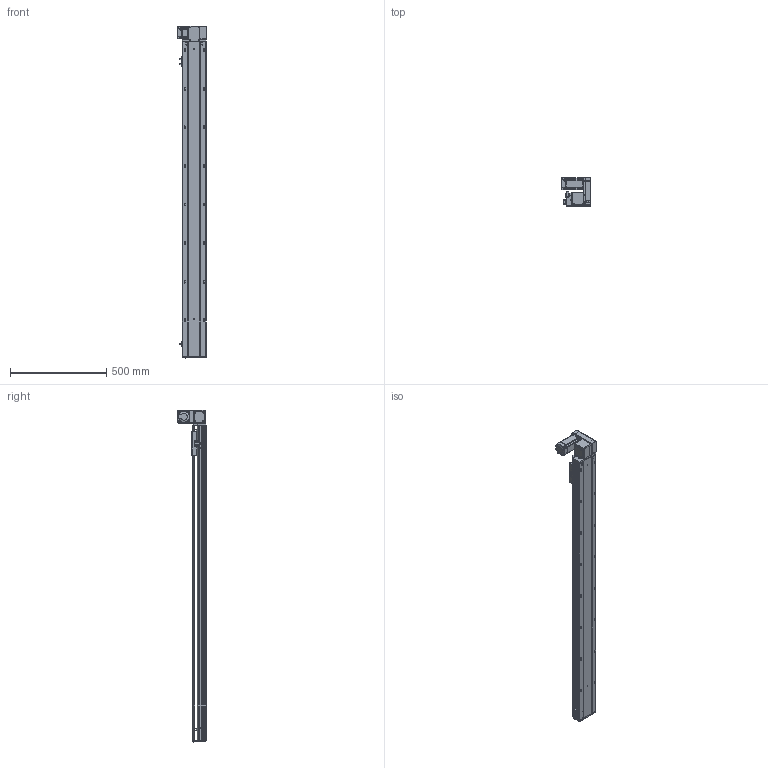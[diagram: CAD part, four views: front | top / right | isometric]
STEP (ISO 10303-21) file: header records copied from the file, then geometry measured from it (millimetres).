
FILE_DESCRIPTION (( 'STEP AP203' ), '1' );
FILE_NAME ('RY120-T-300-UR.SLDASM_1400.step', '2021-03-01T05:57:19', ( '盈信电脑' ), ( '东莞市道滘镇水果街19号' ), 'SwSTEP 2.0', 'SolidWorks 2012', '' );
FILE_SCHEMA (( 'CONFIG_CONTROL_DESIGN' ));
Length unit declared in the file: millimetre
Products named in the file (17): RY120-T蹟翐M4; RY120-T萇儂欶; RY120-T-300-UR.SLDASM_1400; RY120-T主同步轮轴承压盖; RY120-T翋肮祭謫裔啣; 滅袉蝶18-10; RY120-T萇儂假蚾啣; RY120-T翋肮祭盓傅釱; RY120-T肮祭湍揤踡輸1; RY120-T肮祭湍揤踡輸2; 覜茼ん672; RY120綴裔啣; RY120外置感应片(140共用）; RY120-T-300-UR倰第奻裔啣_1400; RY120-T-300-UR倰第菁釱_1400; RY120肮祭湍臏賑輸; 15
Assembly tree (22 placements, depth 2):
  RY120-T-300-UR.SLDASM_1400
    RY120-T-300-UR倰第菁釱_1400
    RY120-T-300-UR倰第奻裔啣_1400
    RY120肮祭湍臏賑輸
    RY120綴裔啣
    覜茼ん672  x3
    RY120外置感应片(140共用）
    RY120-T肮祭湍揤踡輸1
    RY120-T肮祭湍揤踡輸2
    RY120-T翋肮祭盓傅釱
    RY120-T萇儂假蚾啣
    滅袉蝶18-10  x2
    RY120-T翋肮祭謫裔啣
    15
    RY120-T蹟翐M4  x4
    RY120-T萇儂欶
    RY120-T主同步轮轴承压盖
Bounding box: 155.5 x 146 x 1721 mm (x, y, z)
Volume: 4494049.6 mm3; surface area: 1697381.1 mm2
Topology: 23 solids, 23 shells, 2910 faces, 7932 edges, 5068 vertices
Faces by surface type: plane 1422, cylinder 1120, cone 279, bspline 89
Entity records: 92611 total; most frequent: CARTESIAN_POINT 23622, ORIENTED_EDGE 14232, DIRECTION 13494, EDGE_CURVE 7116, VERTEX_POINT 4655, AXIS2_PLACEMENT_3D 4543, VECTOR 4408, LINE 4408
